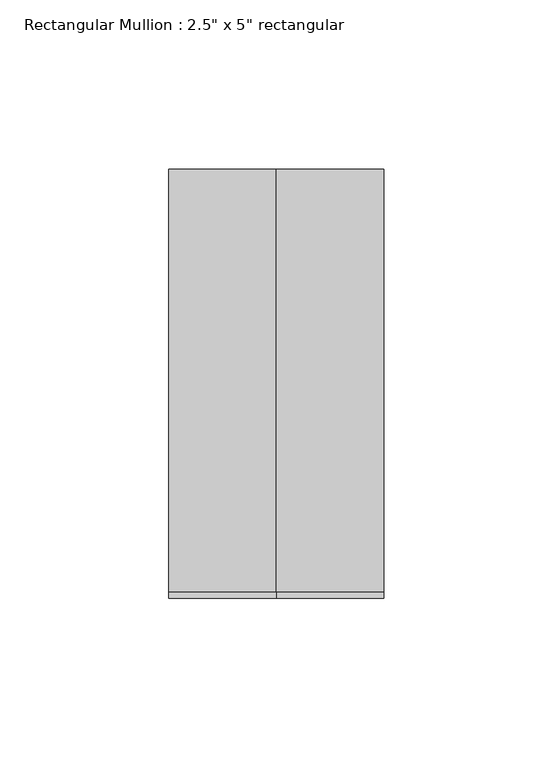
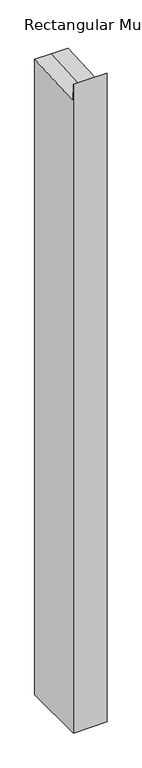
"""IFC4 building model written with IfcOpenShell, lengths in millimetres: member geometry."""

from ifc_helpers import new_model, si_unit, origin, place, context, project, spatial, faceted_brep, source, transform, mapped, element, save


def member_ccc961e5(model_context):
    return source(origin(), model_context, "Body", "Brep", [
        faceted_brep([(31.75, 63.5, -1268.3434676), (31.75, -63.5, -1268.3434676), (-31.75, -63.5, -1268.3434676), (-31.75, 63.5, -1268.3434676), (-31.75, 63.5, 3.6328081), (0.0, 63.5, 3.6328081), (31.75, 63.5, 3.6328081), (-31.75, -63.5, 29.9084196), (-31.75, -61.5532406, -3.6267023), (31.75, -63.5, 29.9084196), (0.0, -63.5, 29.9084196), (31.75, -61.5532406, -3.6267023), (0.0, -61.5532406, -3.6267023)], [[[0, 1, 2, 3]], [[4, 5, 6, 0, 3]], [[7, 8, 4, 3, 2]], [[9, 10, 7, 2, 1]], [[6, 11, 9, 1, 0]], [[6, 5, 12, 11]], [[5, 4, 8, 12]], [[8, 7, 10, 12]], [[10, 9, 11, 12]]]),
    ])


if __name__ == "__main__":
    model = new_model("IFC4")
    model_context = context("Model", 3, world=origin())
    ifc_project = project(units=[si_unit("LENGTHUNIT", "METRE", prefix="MILLI")], contexts=[model_context])
    site = spatial("IfcSite", under=ifc_project)
    building = spatial("IfcBuilding", under=site)
    placement = place(None, origin())
    member_shape = member_ccc961e5(model_context)
    element("IfcMember", 1, ObjectType="Rectangular Mullion : 2.5\" x 5\" rectangular", at=placement, inside=building, context=model_context, shape_type="MappedRepresentation", body=[
        mapped(member_shape, transform((0.0, 0.0, 0.0), x_axis=(1.0, 0.0, 0.0), y_axis=(0.0, 1.0, 0.0), z_axis=(0.0, 0.0, 1.0))),
    ])
    save(model, "model.ifc")
